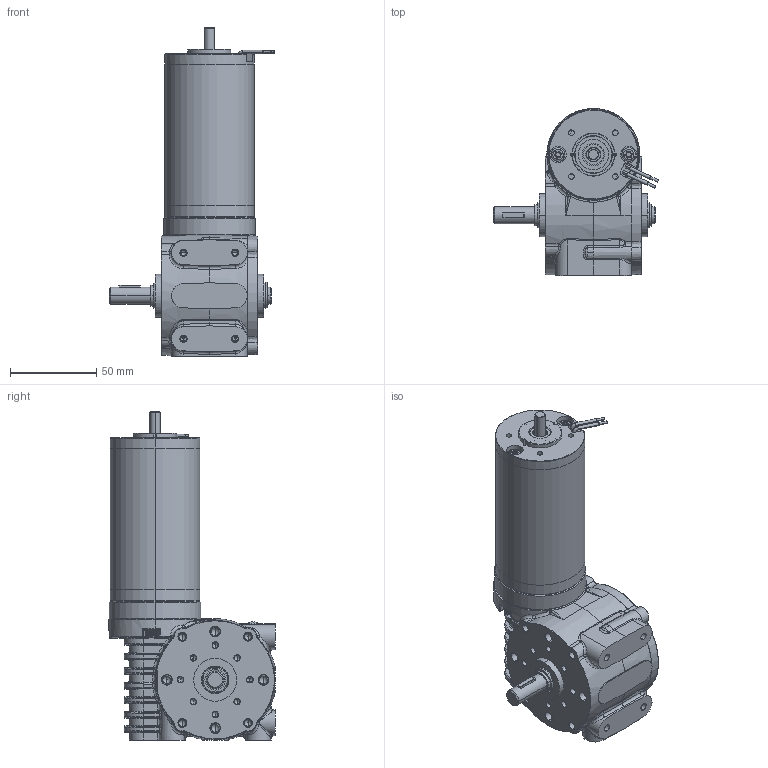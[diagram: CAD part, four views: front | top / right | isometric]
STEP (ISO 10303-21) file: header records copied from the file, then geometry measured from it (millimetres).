
FILE_DESCRIPTION (( 'STEP AP214' ), '1' );
FILE_NAME ('BRx52-30-GB80 - Shaft.STEP', '2025-04-29T06:58:49', ( '' ), ( '' ), 'SwSTEP 2.0', 'SolidWorks 2023', '' );
FILE_SCHEMA (( 'AUTOMOTIVE_DESIGN' ));
Length unit declared in the file: millimetre
Products named in the file (1): BRx52-30-GB80 - Shaft
Bounding box: 95.83 x 96.92 x 190.5 mm (x, y, z)
Volume: 293800 mm3; surface area: 142778.9 mm2
Topology: 31 solids, 31 shells, 3226 faces, 8194 edges, 5074 vertices
Faces by surface type: cylinder 1552, plane 563, torus 396, bspline 366, cone 329, sphere 20
Entity records: 157696 total; most frequent: CARTESIAN_POINT 45806, DIRECTION 16201, ORIENTED_EDGE 16200, EDGE_CURVE 8100, AXIS2_PLACEMENT_3D 6711, VERTEX_POINT 5074, CIRCLE 3850, EDGE_LOOP 3454
